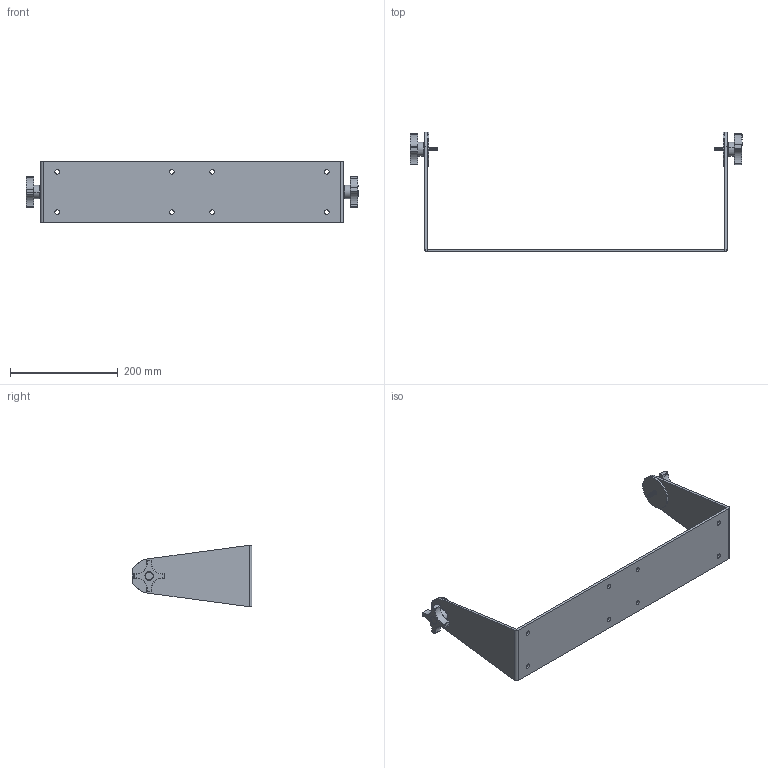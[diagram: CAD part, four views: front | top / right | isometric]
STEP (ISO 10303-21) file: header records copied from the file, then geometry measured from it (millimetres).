
FILE_DESCRIPTION (( 'STEP AP214' ), '1' );
FILE_NAME ('Wall Yoke for 22 inch Universal Mount Monitor, YW22.STEP', '2017-07-18T14:11:01', ( '' ), ( '' ), 'SwSTEP 2.0', 'SolidWorks 2017', '' );
FILE_SCHEMA (( 'AUTOMOTIVE_DESIGN' ));
Length unit declared in the file: inch
Products named in the file (5): Bushing, 30501; Knob, 30053; Rubber Washer, 10177; All Wall Yoke Configurations, YWxx_YW22; Wall Yoke for 22 inch Universal Mount Monitor, YW22
Assembly tree (7 placements, depth 2):
  Wall Yoke for 22 inch Universal Mount Monitor, YW22
    All Wall Yoke Configurations, YWxx_YW22
    Rubber Washer, 10177  x2
    Knob, 30053  x2
    Bushing, 30501  x2
Bounding box: 616 x 222.25 x 114.3 mm (x, y, z)
Volume: 544391.3 mm3; surface area: 239123.7 mm2
Topology: 7 solids, 7 shells, 568 faces, 1228 edges, 666 vertices
Faces by surface type: cylinder 262, cone 176, torus 48, sphere 40, plane 38, bspline 4
Entity records: 10971 total; most frequent: CARTESIAN_POINT 4020, DIRECTION 1495, ORIENTED_EDGE 1340, EDGE_CURVE 670, AXIS2_PLACEMENT_3D 612, VERTEX_POINT 371, EDGE_LOOP 339, FACE_OUTER_BOUND 311
